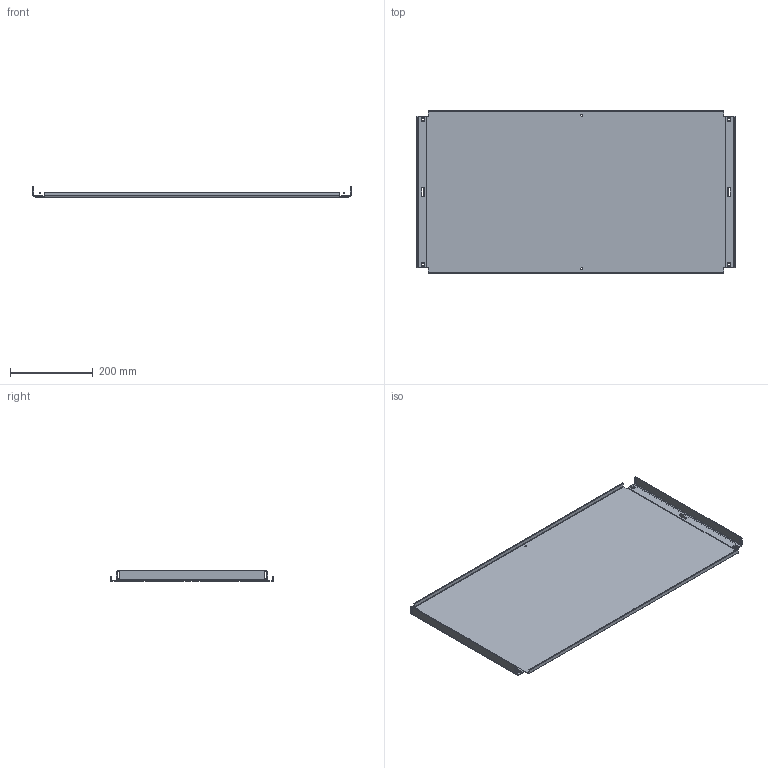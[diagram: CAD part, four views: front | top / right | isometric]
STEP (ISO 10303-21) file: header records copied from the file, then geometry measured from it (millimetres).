
FILE_DESCRIPTION(('STEP AP203'), '1');
FILE_NAME('Ïàíåëü ìîíòàæíàÿ ãëóõàÿ Â400õØ800 ìì OptiBox M 419120 ÊÝÀÇ', '', ('UNSPECIFIED'), ('UNSPECIFIED'), 'C3D Converter', 'C3D Toolkit', '');
FILE_SCHEMA(('CONFIG_CONTROL_DESIGN'));
Length unit declared in the file: millimetre
Bounding box: 769.2 x 395 x 26 mm (x, y, z)
Volume: 682257 mm3; surface area: 691488.6 mm2
Topology: 3 solids, 3 shells, 152 faces, 398 edges, 252 vertices
Faces by surface type: plane 118, cylinder 34
Full cylindrical faces by diameter (mm): 4.6 x2, 7.3 x4
Entity records: 5892 total; most frequent: CARTESIAN_POINT 797, ORIENTED_EDGE 784, DIRECTION 766, EDGE_CURVE 392, LINE 324, VECTOR 324, VERTEX_POINT 252, AXIS2_PLACEMENT_3D 221
